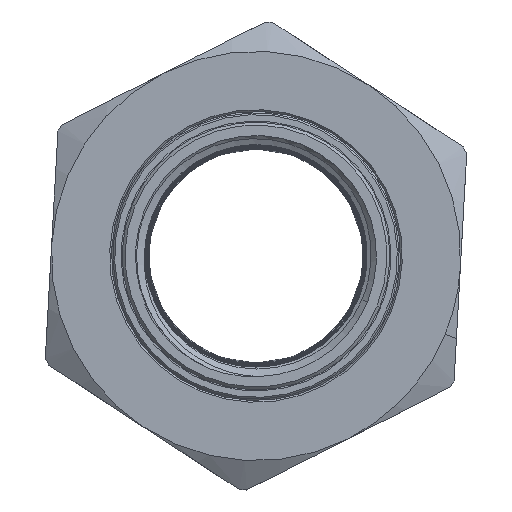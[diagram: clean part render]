
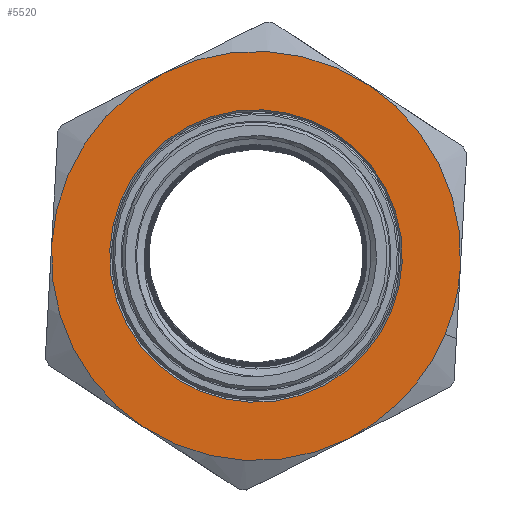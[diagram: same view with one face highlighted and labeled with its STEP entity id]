
A CAD part, left-side view. The second image highlights one B-rep face of the part: STEP entity #5520.
In plain terms, the highlighted planar face has unit normal (-1, 0, 0) as drawn and (1, 0, 0) by its records, which use the part's own axes.
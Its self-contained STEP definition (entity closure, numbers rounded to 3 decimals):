
#482 = VERTEX_POINT ( 'NONE', #7284 ) ;
#488 = VERTEX_POINT ( 'NONE', #7316 ) ;
#495 = VERTEX_POINT ( 'NONE', #7320 ) ;
#537 = VERTEX_POINT ( 'NONE', #7350 ) ;
#539 = VERTEX_POINT ( 'NONE', #7351 ) ;
#553 = VERTEX_POINT ( 'NONE', #7443 ) ;
#554 = VERTEX_POINT ( 'NONE', #7435 ) ;
#555 = VERTEX_POINT ( 'NONE', #7439 ) ;
#578 = VERTEX_POINT ( 'NONE', #7394 ) ;
#773 = EDGE_LOOP ( 'NONE', ( #10737, #10659, #10718, #10720, #10658, #10705, #10672 ) ) ;
#790 = EDGE_LOOP ( 'NONE', ( #10657, #10660 ) ) ;
#2316 = AXIS2_PLACEMENT_3D ( 'NONE', #10095, #10100, #10110 ) ;
#2321 = AXIS2_PLACEMENT_3D ( 'NONE', #10301, #10302, #10304 ) ;
#2323 = AXIS2_PLACEMENT_3D ( 'NONE', #10102, #10120, #10104 ) ;
#2324 = AXIS2_PLACEMENT_3D ( 'NONE', #10117, #10119, #10106 ) ;
#2325 = AXIS2_PLACEMENT_3D ( 'NONE', #9975, #9953, #9944 ) ;
#2334 = AXIS2_PLACEMENT_3D ( 'NONE', #10071, #10066, #10067 ) ;
#2362 = AXIS2_PLACEMENT_3D ( 'NONE', #10115, #10101, #10122 ) ;
#2366 = AXIS2_PLACEMENT_3D ( 'NONE', #10176, #10177, #10167 ) ;
#2411 = AXIS2_PLACEMENT_3D ( 'NONE', #9651, #9634, #9626 ) ;
#5155 = FACE_BOUND ( 'NONE', #790, .T. ) ;
#5176 = FACE_OUTER_BOUND ( 'NONE', #773, .T. ) ;
#5520 = ADVANCED_FACE ( 'NONE', ( #5155, #5176 ), #14036, .F. ) ;
#6758 = CIRCLE ( 'NONE', #2325, 35.4 ) ;
#6763 = CIRCLE ( 'NONE', #2316, 35.4 ) ;
#6781 = CIRCLE ( 'NONE', #2324, 25.3 ) ;
#6787 = CIRCLE ( 'NONE', #2334, 35.4 ) ;
#6794 = CIRCLE ( 'NONE', #2323, 35.4 ) ;
#6825 = CIRCLE ( 'NONE', #2362, 35.4 ) ;
#6849 = CIRCLE ( 'NONE', #2366, 35.4 ) ;
#6851 = CIRCLE ( 'NONE', #2321, 35.4 ) ;
#6915 = CIRCLE ( 'NONE', #2411, 25.3 ) ;
#7284 = CARTESIAN_POINT ( 'NONE',  ( 18.5, 0., -25.3 ) ) ;
#7316 = CARTESIAN_POINT ( 'NONE',  ( 18.5, 0., 35.4 ) ) ;
#7320 = CARTESIAN_POINT ( 'NONE',  ( 18.5, 0., 25.3 ) ) ;
#7350 = CARTESIAN_POINT ( 'NONE',  ( 18.5, -23.099, -26.826 ) ) ;
#7351 = CARTESIAN_POINT ( 'NONE',  ( 18.5, 23.099, 26.826 ) ) ;
#7394 = CARTESIAN_POINT ( 'NONE',  ( 18.5, 11.682, -33.417 ) ) ;
#7435 = CARTESIAN_POINT ( 'NONE',  ( 18.5, -34.781, 6.591 ) ) ;
#7439 = CARTESIAN_POINT ( 'NONE',  ( 18.5, 34.781, -6.591 ) ) ;
#7443 = CARTESIAN_POINT ( 'NONE',  ( 18.5, -11.682, 33.417 ) ) ;
#8387 = EDGE_CURVE ( 'NONE', #537, #554, #6758, .T. ) ;
#8400 = EDGE_CURVE ( 'NONE', #539, #555, #6787, .T. ) ;
#8401 = EDGE_CURVE ( 'NONE', #578, #537, #6794, .T. ) ;
#8404 = EDGE_CURVE ( 'NONE', #495, #482, #6781, .T. ) ;
#8410 = EDGE_CURVE ( 'NONE', #488, #539, #6763, .T. ) ;
#8411 = EDGE_CURVE ( 'NONE', #555, #578, #6825, .T. ) ;
#8438 = EDGE_CURVE ( 'NONE', #554, #553, #6849, .T. ) ;
#8451 = EDGE_CURVE ( 'NONE', #553, #488, #6851, .T. ) ;
#8468 = EDGE_CURVE ( 'NONE', #482, #495, #6915, .T. ) ;
#9626 = DIRECTION ( 'NONE',  ( 0., 0., 1. ) ) ;
#9634 = DIRECTION ( 'NONE',  ( -1., 0., 0. ) ) ;
#9651 = CARTESIAN_POINT ( 'NONE',  ( 18.5, 0., 0. ) ) ;
#9944 = DIRECTION ( 'NONE',  ( 0., 0., 1. ) ) ;
#9953 = DIRECTION ( 'NONE',  ( -1., 0., 0. ) ) ;
#9975 = CARTESIAN_POINT ( 'NONE',  ( 18.5, 0., 0. ) ) ;
#10066 = DIRECTION ( 'NONE',  ( -1., 0., 0. ) ) ;
#10067 = DIRECTION ( 'NONE',  ( 0., 0., 1. ) ) ;
#10071 = CARTESIAN_POINT ( 'NONE',  ( 18.5, 0., 0. ) ) ;
#10095 = CARTESIAN_POINT ( 'NONE',  ( 18.5, 0., 0. ) ) ;
#10100 = DIRECTION ( 'NONE',  ( -1., 0., 0. ) ) ;
#10101 = DIRECTION ( 'NONE',  ( -1., 0., 0. ) ) ;
#10102 = CARTESIAN_POINT ( 'NONE',  ( 18.5, 0., 0. ) ) ;
#10104 = DIRECTION ( 'NONE',  ( 0., 0., 1. ) ) ;
#10106 = DIRECTION ( 'NONE',  ( 0., 0., 1. ) ) ;
#10110 = DIRECTION ( 'NONE',  ( 0., 0., 1. ) ) ;
#10115 = CARTESIAN_POINT ( 'NONE',  ( 18.5, 0., 0. ) ) ;
#10117 = CARTESIAN_POINT ( 'NONE',  ( 18.5, 0., 0. ) ) ;
#10119 = DIRECTION ( 'NONE',  ( -1., 0., 0. ) ) ;
#10120 = DIRECTION ( 'NONE',  ( -1., 0., 0. ) ) ;
#10122 = DIRECTION ( 'NONE',  ( 0., 0., 1. ) ) ;
#10167 = DIRECTION ( 'NONE',  ( 0., 0., 1. ) ) ;
#10176 = CARTESIAN_POINT ( 'NONE',  ( 18.5, 0., 0. ) ) ;
#10177 = DIRECTION ( 'NONE',  ( -1., 0., 0. ) ) ;
#10301 = CARTESIAN_POINT ( 'NONE',  ( 18.5, 0., 0. ) ) ;
#10302 = DIRECTION ( 'NONE',  ( -1., 0., 0. ) ) ;
#10304 = DIRECTION ( 'NONE',  ( 0., 0., 1. ) ) ;
#10657 = ORIENTED_EDGE ( 'NONE', *, *, #8468, .T. ) ;
#10658 = ORIENTED_EDGE ( 'NONE', *, *, #8387, .F. ) ;
#10659 = ORIENTED_EDGE ( 'NONE', *, *, #8410, .F. ) ;
#10660 = ORIENTED_EDGE ( 'NONE', *, *, #8404, .T. ) ;
#10672 = ORIENTED_EDGE ( 'NONE', *, *, #8411, .F. ) ;
#10705 = ORIENTED_EDGE ( 'NONE', *, *, #8401, .F. ) ;
#10718 = ORIENTED_EDGE ( 'NONE', *, *, #8451, .F. ) ;
#10720 = ORIENTED_EDGE ( 'NONE', *, *, #8438, .F. ) ;
#10737 = ORIENTED_EDGE ( 'NONE', *, *, #8400, .F. ) ;
#11041 = AXIS2_PLACEMENT_3D ( 'NONE', #14017, #14022, #14044 ) ;
#14017 = CARTESIAN_POINT ( 'NONE',  ( 18.5, 25., 0. ) ) ;
#14022 = DIRECTION ( 'NONE',  ( -1., 0., 0. ) ) ;
#14036 = PLANE ( 'NONE',  #11041 ) ;
#14044 = DIRECTION ( 'NONE',  ( 0., 0., 1. ) ) ;
